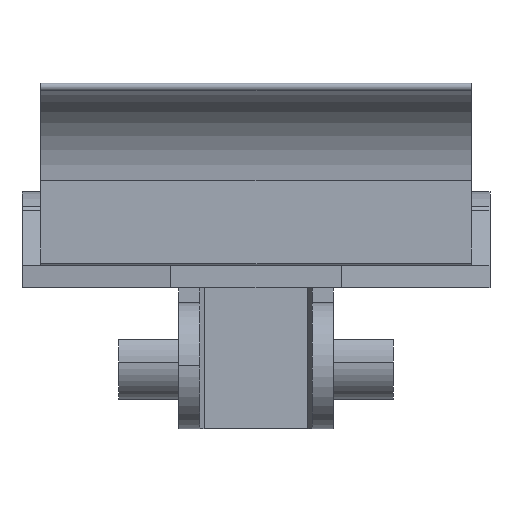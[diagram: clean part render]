
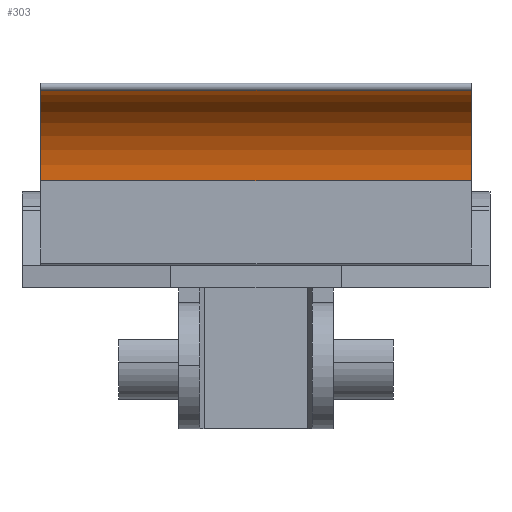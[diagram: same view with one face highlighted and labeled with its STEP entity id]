
A CAD part, front view. The second image highlights one B-rep face of the part: STEP entity #303.
In plain terms, the highlighted cylindrical face has radius 12.5 mm (diameter 25 mm), a partial arc.
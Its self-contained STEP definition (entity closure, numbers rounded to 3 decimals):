
#55 = VERTEX_POINT ( 'NONE', #1085 ) ;
#190 = VERTEX_POINT ( 'NONE', #1361 ) ;
#255 = EDGE_CURVE ( 'NONE', #190, #55, #1834, .T. ) ;
#279 = EDGE_LOOP ( 'NONE', ( #305, #299, #304, #287 ) ) ;
#287 = ORIENTED_EDGE ( 'NONE', *, *, #477, .F. ) ;
#299 = ORIENTED_EDGE ( 'NONE', *, *, #301, .T. ) ;
#301 = EDGE_CURVE ( 'NONE', #190, #4638, #1766, .T. ) ;
#303 = ADVANCED_FACE ( 'NONE', ( #1758 ), #1769, .F. ) ;
#304 = ORIENTED_EDGE ( 'NONE', *, *, #4623, .T. ) ;
#305 = ORIENTED_EDGE ( 'NONE', *, *, #255, .F. ) ;
#477 = EDGE_CURVE ( 'NONE', #55, #4619, #2205, .T. ) ;
#1085 = CARTESIAN_POINT ( 'NONE',  ( 184.2, 167.75, 0.411 ) ) ;
#1361 = CARTESIAN_POINT ( 'NONE',  ( 242.2, 167.75, 0.411 ) ) ;
#1754 = DIRECTION ( 'NONE',  ( 0., 0., -1. ) ) ;
#1755 = DIRECTION ( 'NONE',  ( 1., 0., 0. ) ) ;
#1756 = CARTESIAN_POINT ( 'NONE',  ( 242.2, 155.25, 0.411 ) ) ;
#1758 = FACE_OUTER_BOUND ( 'NONE', #279, .T. ) ;
#1761 = AXIS2_PLACEMENT_3D ( 'NONE', #1756, #1755, #1754 ) ;
#1766 = CIRCLE ( 'NONE', #1761, 12.5 ) ;
#1769 = CYLINDRICAL_SURFACE ( 'NONE', #1776, 12.5 ) ;
#1776 = AXIS2_PLACEMENT_3D ( 'NONE', #1797, #1796, #1795 ) ;
#1795 = DIRECTION ( 'NONE',  ( 0., 0., -1. ) ) ;
#1796 = DIRECTION ( 'NONE',  ( 1., 0., 0. ) ) ;
#1797 = CARTESIAN_POINT ( 'NONE',  ( 213.2, 155.25, 0.411 ) ) ;
#1818 = DIRECTION ( 'NONE',  ( -1., 0., 0. ) ) ;
#1819 = VECTOR ( 'NONE', #1818, 1000. ) ;
#1820 = CARTESIAN_POINT ( 'NONE',  ( 213.2, 167.75, 0.411 ) ) ;
#1834 = LINE ( 'NONE', #1820, #1819 ) ;
#2200 = DIRECTION ( 'NONE',  ( 0., 0., -1. ) ) ;
#2201 = DIRECTION ( 'NONE',  ( 1., 0., 0. ) ) ;
#2202 = CARTESIAN_POINT ( 'NONE',  ( 184.2, 155.25, 0.411 ) ) ;
#2203 = AXIS2_PLACEMENT_3D ( 'NONE', #2202, #2201, #2200 ) ;
#2205 = CIRCLE ( 'NONE', #2203, 12.5 ) ;
#4026 = CARTESIAN_POINT ( 'NONE',  ( 184.2, 158.135, 12.573 ) ) ;
#4149 = VECTOR ( 'NONE', #4174, 1000. ) ;
#4154 = LINE ( 'NONE', #4156, #4149 ) ;
#4156 = CARTESIAN_POINT ( 'NONE',  ( 213.2, 158.135, 12.573 ) ) ;
#4174 = DIRECTION ( 'NONE',  ( -1., 0., 0. ) ) ;
#4191 = CARTESIAN_POINT ( 'NONE',  ( 242.2, 158.135, 12.573 ) ) ;
#4619 = VERTEX_POINT ( 'NONE', #4026 ) ;
#4623 = EDGE_CURVE ( 'NONE', #4638, #4619, #4154, .T. ) ;
#4638 = VERTEX_POINT ( 'NONE', #4191 ) ;
